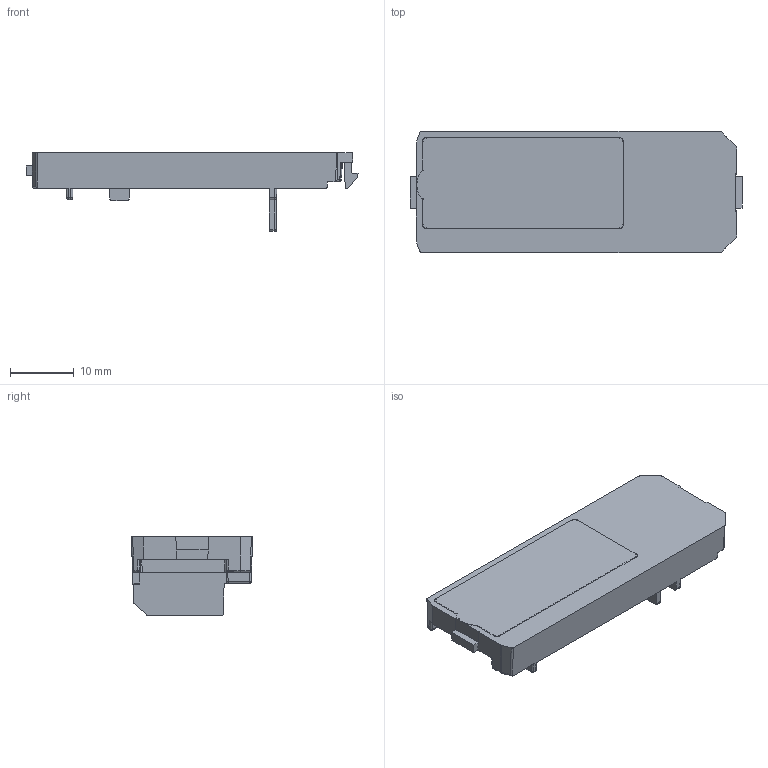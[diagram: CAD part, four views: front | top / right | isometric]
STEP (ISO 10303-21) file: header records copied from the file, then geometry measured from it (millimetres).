
FILE_DESCRIPTION((''),'2;1');
FILE_NAME('3878-0028_RR-BRKOUT-BACK','2016-08-18T',('dbujade'),(''),'PRO/ENGINEER BY PARAMETRIC TECHNOLOGY CORPORATION, 2011490','PRO/ENGINEER BY PARAMETRIC TECHNOLOGY CORPORATION, 2011490','');
FILE_SCHEMA(('AUTOMOTIVE_DESIGN_CC2 { 1 2 10303 214 -1 1 5 2 }'));
Length unit declared in the file: millimetre
Products named in the file (1): 3878-0028_RR-BRKOUT-BACK
Bounding box: 52.25 x 19.1 x 12.4 mm (x, y, z)
Volume: 1757.7 mm3; surface area: 3947 mm2
Topology: 1 solids, 1 shells, 210 faces, 546 edges, 336 vertices
Faces by surface type: plane 100, cylinder 79, sphere 17, bspline 12, torus 1, cone 1
Entity records: 8507 total; most frequent: CARTESIAN_POINT 1922, ORIENTED_EDGE 1088, DIRECTION 934, PRESENTATION_STYLE_ASSIGNMENT 545, STYLED_ITEM 545, CURVE_STYLE 544, EDGE_CURVE 544, VECTOR 360
